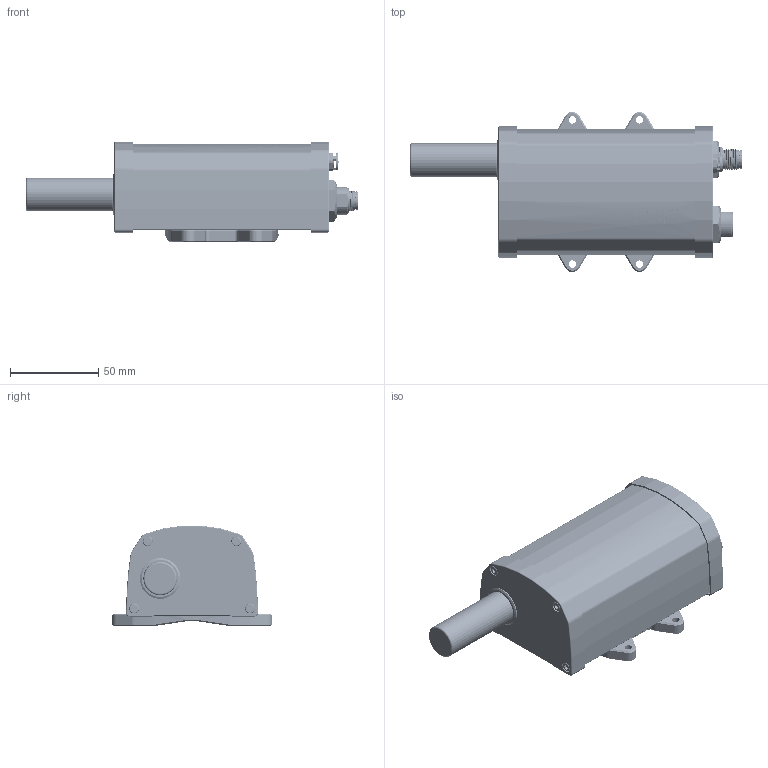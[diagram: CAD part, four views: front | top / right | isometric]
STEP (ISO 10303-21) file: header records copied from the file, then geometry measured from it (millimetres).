
FILE_DESCRIPTION (( 'STEP AP203' ), '1' );
FILE_NAME ('PRO-ANT-REV-A.STEP', '2025-05-15T13:06:37', ( '' ), ( '' ), 'SwSTEP 2.0', 'SolidWorks 2024', '' );
FILE_SCHEMA (( 'CONFIG_CONTROL_DESIGN' ));
Length unit declared in the file: millimetre
Products named in the file (19): M3X12 Skt Cap; M6X0_75-F_4-1; PNGLN-CONNCAPINT; NUT-FOR-GTC-GT21C300-20; PRT0002-1; RFCT-SMA087-F78_rev1.0.STEP; PRT0004-1; PRO-ANT-REV-A; GTC-GT21C300-20; PNGLN-FOOT; ANB122XXX01 NUT; M12-XXPMMP-SF8002; PRT0003-1; PNGLN-ENDCAPINT; antenna-iridium-m1621HCT-P-SMA; M6; M3x8mm Skt Cap; PNGLN-RBP-EXTRUSION; ASM0002
Assembly tree (28 placements, depth 4):
  PRO-ANT-REV-A
    M3X12 Skt Cap  x8
    PNGLN-RBP-EXTRUSION
    PNGLN-CONNCAPINT
    ASM0002
      M6
        PRT0002-1
        M6X0_75-F_4-1
        PRT0003-1
      PRT0004-1
    ANB122XXX01 NUT
    M3x8mm Skt Cap  x4
    PNGLN-ENDCAPINT
    PNGLN-FOOT
    NUT-FOR-GTC-GT21C300-20
    antenna-iridium-m1621HCT-P-SMA
    RFCT-SMA087-F78_rev1.0.STEP
    M12-XXPMMP-SF8002
    GTC-GT21C300-20
Bounding box: 187.65 x 90.5 x 56.81 mm (x, y, z)
Volume: 132792.6 mm3; surface area: 98562.7 mm2
Topology: 46 solids, 46 shells, 4051 faces, 11864 edges, 8070 vertices
Faces by surface type: cylinder 1888, plane 1301, bspline 499, cone 177, torus 138, sphere 48
Entity records: 151444 total; most frequent: CARTESIAN_POINT 76930, ORIENTED_EDGE 16546, DIRECTION 12770, EDGE_CURVE 8273, VERTEX_POINT 5543, AXIS2_PLACEMENT_3D 4445, LINE 3880, VECTOR 3880
